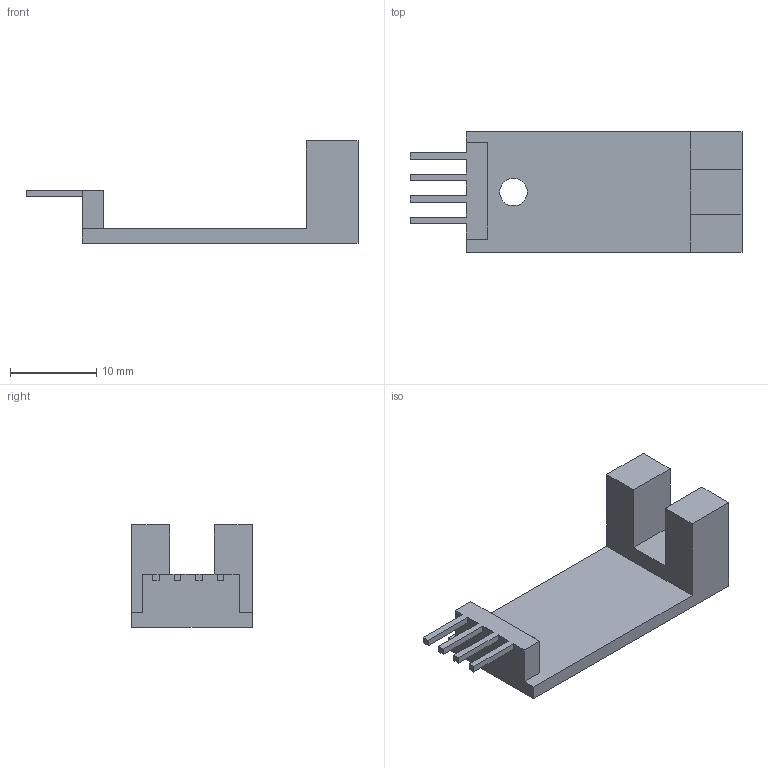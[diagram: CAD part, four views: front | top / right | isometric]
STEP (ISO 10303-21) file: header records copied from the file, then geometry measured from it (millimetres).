
FILE_DESCRIPTION(/* description */ (''),/* implementation_level */ '2;1');
FILE_NAME(/* name */ 'C:\Users\admin\Desktop\sensore_giri.stp',/* time_stamp */ '2020-12-02T12:27:05+01:00',/* author */ ('admin'),/* organization */ (''),/* preprocessor_version */ 'ST-DEVELOPER v18',/* originating_system */ 'Autodesk Inventor 2020',/* authorisation */ '');
FILE_SCHEMA (('AUTOMOTIVE_DESIGN { 1 0 10303 214 3 1 1 }'));
Length unit declared in the file: millimetre
Products named in the file (1): sensore_giri
Bounding box: 38.5 x 14 x 11.85 mm (x, y, z)
Volume: 1468.8 mm3; surface area: 1673.4 mm2
Topology: 1 solids, 1 shells, 33 faces, 95 edges, 64 vertices
Faces by surface type: plane 32, cylinder 1
Full cylindrical faces by diameter (mm): 3.2 x1
Entity records: 1114 total; most frequent: CARTESIAN_POINT 193, ORIENTED_EDGE 190, DIRECTION 167, EDGE_CURVE 95, LINE 91, VECTOR 91, VERTEX_POINT 64, AXIS2_PLACEMENT_3D 38
